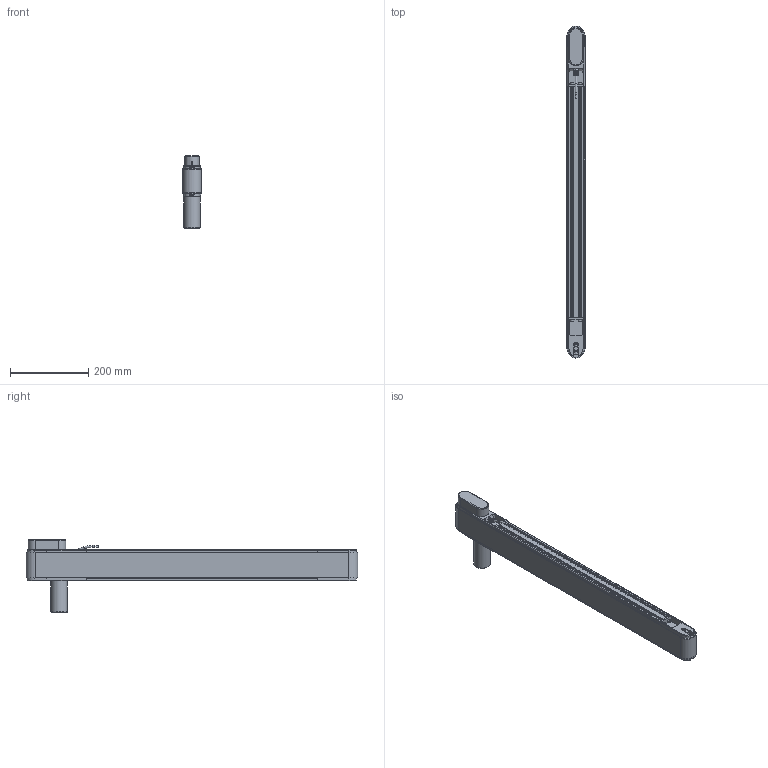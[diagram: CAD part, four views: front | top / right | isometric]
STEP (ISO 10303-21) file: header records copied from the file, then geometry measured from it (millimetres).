
FILE_DESCRIPTION(/* description */ (''),/* implementation_level */ '2;1');
FILE_NAME(/* name */ 'G:\DATEN\CAD\Förderband\Marketing\3D-Modelle (Standard)\FR-40-80-Q\FR-40-80-Q-800-K (Motorendrohr 80 mm).stp',/* time_stamp */ '2019-05-08T14:18:45+02:00',/* author */ ('melanie.ochs'),/* organization */ (''),/* preprocessor_version */ 'ST-DEVELOPER v17',/* originating_system */ 'Autodesk Inventor 2019',/* authorisation */ '');
FILE_SCHEMA (('CONFIG_CONTROL_DESIGN'));
Length unit declared in the file: centimetre
Products named in the file (1): FR-40-80-Q-800-K (Motorendrohr 80 mm)
Bounding box: 46.6 x 846.6 x 185 mm (x, y, z)
Volume: 1527714.5 mm3; surface area: 837944.9 mm2
Topology: 31 solids, 32 shells, 877 faces, 2386 edges, 1622 vertices
Faces by surface type: plane 440, cylinder 275, cone 70, bspline 61, torus 31
Full cylindrical faces by diameter (mm): 2 x2, 4 x6, 4.3 x4, 4.65 x1, 4.917 x2, 5 x11, 5.5 x8, 6 x2, 6.5 x1, 6.773 x1, 6.917 x2, 8 x7, 8.3 x12, 8.5 x8, 8.773 x1, 10 x1, 11 x1, 12 x3, 25 x2, 28 x4, 42 x2, 44 x2
Entity records: 29497 total; most frequent: CARTESIAN_POINT 6205, ORIENTED_EDGE 4736, DIRECTION 4597, EDGE_CURVE 2368, AXIS2_PLACEMENT_3D 1666, VERTEX_POINT 1622, LINE 1265, VECTOR 1265
